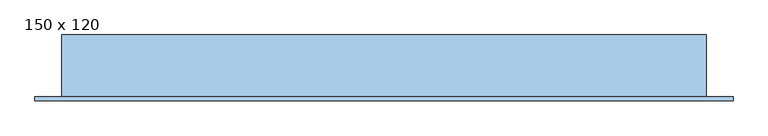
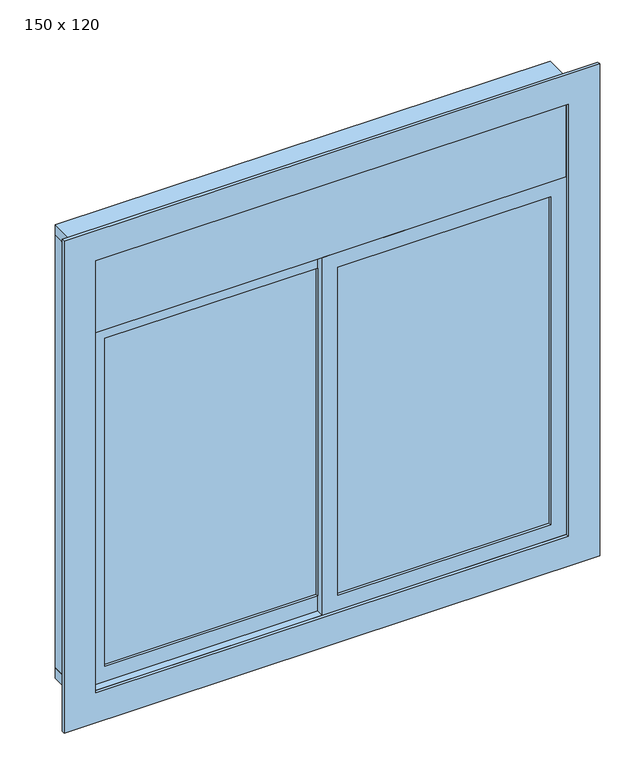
"""IFC4 building model written with IfcOpenShell, lengths in millimetres: window geometry, JANELA COM ESQUADRIA DE CORRER - 2 FOLHAS + PERSIANA INTEGRADA : 150 x 120."""

from ifc_helpers import new_model, si_unit, frame, origin, place, context, project, spatial, polyline, outline, extrude, source, transform, mapped, element, save


def window_150_x_120_f6b27d10(model_context):
    return source(origin(), model_context, "Body", "SweptSolid", [
        extrude(outline(polyline([(-570.5964491, -35.3758395), (104.4035509, -35.3758395), (104.4035509, -41.3758395), (-570.5964491, -41.3758395), (-570.5964491, -35.3758395)])), frame((0.0, 0.0, 1050.0), z_axis=(0.0, 0.0, 1.0), x_axis=(1.0, 0.0, 0.0)), (0.0, 0.0, 1.0), 1100.0),
        extrude(outline(polyline([(2200.0, -620.5964491), (1000.0, -620.5964491), (1000.0, 154.4035509), (2200.0, 154.4035509), (2200.0, -620.5964491)]), holes=[polyline([(2150.0, -570.5964491), (2150.0, 104.4035509), (1050.0, 104.4035509), (1050.0, -570.5964491), (2150.0, -570.5964491)])]), frame((0.0, -50.8758395, 0.0), z_axis=(0.0, 1.0, 0.0), x_axis=(0.0, 0.0, 1.0)), (0.0, 0.0, 1.0), 25.0),
        extrude(outline(polyline([(829.4035509, -60.3758395), (829.4035509, -66.3758395), (154.4035509, -66.3758395), (154.4035509, -60.3758395), (829.4035509, -60.3758395)])), frame((0.0, 0.0, 1050.0), z_axis=(0.0, 0.0, 1.0), x_axis=(1.0, 0.0, 0.0)), (0.0, 0.0, 1.0), 1100.0),
        extrude(outline(polyline([(2200.0, 879.4035509), (2200.0, 104.4035509), (1000.0, 104.4035509), (1000.0, 879.4035509), (2200.0, 879.4035509)]), holes=[polyline([(2150.0, 829.4035509), (1050.0, 829.4035509), (1050.0, 154.4035509), (2150.0, 154.4035509), (2150.0, 829.4035509)])]), frame((0.0, -75.8758395, 0.0), z_axis=(0.0, 1.0, 0.0), x_axis=(0.0, 0.0, 1.0)), (0.0, 0.0, 1.0), 25.0),
        extrude(outline(polyline([(900.0, -720.5964491), (900.0, 979.4035509), (2550.0, 979.4035509), (2550.0, -720.5964491), (900.0, -720.5964491)]), holes=[polyline([(2450.0, -620.5964491), (2450.0, 879.4035509), (1000.0, 879.4035509), (1000.0, -620.5964491), (2450.0, -620.5964491)])]), frame((0.0, -85.8758395, 0.0), z_axis=(0.0, 1.0, 0.0), x_axis=(0.0, 0.0, 1.0)), (0.0, 0.0, 1.0), 10.0),
        extrude(outline(polyline([(-655.5964491, 74.1241605), (-620.5964491, 74.1241605), (-620.5964491, -75.8758395), (-655.5964491, -75.8758395), (-655.5964491, 74.1241605)])), frame((0.0, 0.0, 1000.0), z_axis=(0.0, 0.0, 1.0), x_axis=(1.0, 0.0, 0.0)), (0.0, 0.0, 1.0), 1450.0),
        extrude(outline(polyline([(879.4035509, 74.1241605), (914.4035509, 74.1241605), (914.4035509, -75.8758395), (879.4035509, -75.8758395), (879.4035509, 74.1241605)])), frame((0.0, 0.0, 1000.0), z_axis=(0.0, 0.0, 1.0), x_axis=(1.0, 0.0, 0.0)), (0.0, 0.0, 1.0), 1450.0),
        extrude(outline(polyline([(-655.5964491, 74.1241605), (914.4035509, 74.1241605), (914.4035509, -75.8758395), (-655.5964491, -75.8758395), (-655.5964491, 74.1241605)])), frame((0.0, 0.0, 965.0), z_axis=(0.0, 0.0, 1.0), x_axis=(1.0, 0.0, 0.0)), (0.0, 0.0, 1.0), 35.0),
        extrude(outline(polyline([(879.4035509, 53.1241605), (879.4035509, 45.1241605), (-620.5964491, 45.1241605), (-620.5964491, 53.1241605), (879.4035509, 53.1241605)])), frame((0.0, 0.0, 2330.0), z_axis=(0.0, 0.0, 1.0), x_axis=(1.0, 0.0, 0.0)), (0.0, 0.0, 1.0), 120.0),
        extrude(outline(polyline([(879.4035509, 69.1241605), (879.4035509, 64.1241605), (-620.5964491, 64.1241605), (-620.5964491, 69.1241605), (879.4035509, 69.1241605)])), frame((0.0, 0.0, 2200.0), z_axis=(0.0, 0.0, 1.0), x_axis=(1.0, 0.0, 0.0)), (0.0, 0.0, 1.0), 250.0),
        extrude(outline(polyline([(-75.8758395, 2200.0), (-75.8758395, 2450.0), (-70.8758395, 2450.0), (-70.8758395, 2205.0), (34.1241605, 2205.0), (34.1241605, 2200.0), (-75.8758395, 2200.0)])), frame((-620.5964491, 0.0, 0.0), z_axis=(1.0, 0.0, 0.0), x_axis=(0.0, 1.0, 0.0)), (0.0, 0.0, 1.0), 1500.0),
        extrude(outline(polyline([(-655.5964491, 74.1241605), (914.4035509, 74.1241605), (914.4035509, -75.8758395), (-655.5964491, -75.8758395), (-655.5964491, 74.1241605)])), frame((0.0, 0.0, 2450.0), z_axis=(0.0, 0.0, 1.0), x_axis=(1.0, 0.0, 0.0)), (0.0, 0.0, 1.0), 35.0),
        extrude(outline(polyline([(-580.5964491, 64.1241605), (-580.5964491, 59.1241605), (-620.5964491, 59.1241605), (-620.5964491, 64.1241605), (-580.5964491, 64.1241605)])), frame((0.0, 0.0, 1000.0), z_axis=(0.0, 0.0, 1.0), x_axis=(1.0, 0.0, 0.0)), (0.0, 0.0, 1.0), 1450.0),
        extrude(outline(polyline([(-620.5964491, 39.1241605), (-580.5964491, 39.1241605), (-580.5964491, 34.1241605), (-620.5964491, 34.1241605), (-620.5964491, 39.1241605)])), frame((0.0, 0.0, 1000.0), z_axis=(0.0, 0.0, 1.0), x_axis=(1.0, 0.0, 0.0)), (0.0, 0.0, 1.0), 1450.0),
        extrude(outline(polyline([(839.4035509, 64.1241605), (879.4035509, 64.1241605), (879.4035509, 59.1241605), (839.4035509, 59.1241605), (839.4035509, 64.1241605)])), frame((0.0, 0.0, 1000.0), z_axis=(0.0, 0.0, 1.0), x_axis=(1.0, 0.0, 0.0)), (0.0, 0.0, 1.0), 1450.0),
        extrude(outline(polyline([(879.4035509, 39.1241605), (879.4035509, 34.1241605), (839.4035509, 34.1241605), (839.4035509, 39.1241605), (879.4035509, 39.1241605)])), frame((0.0, 0.0, 1000.0), z_axis=(0.0, 0.0, 1.0), x_axis=(1.0, 0.0, 0.0)), (0.0, 0.0, 1.0), 1450.0),
    ])


if __name__ == "__main__":
    model = new_model("IFC4")
    model_context = context("Model", 3, world=origin())
    ifc_project = project(units=[si_unit("LENGTHUNIT", "METRE", prefix="MILLI")], contexts=[model_context])
    site = spatial("IfcSite", under=ifc_project)
    building = spatial("IfcBuilding", under=site)
    placement = place(None, origin())
    window_150_x_120_shape = window_150_x_120_f6b27d10(model_context)
    element("IfcWindow", 1, ObjectType="JANELA COM ESQUADRIA DE CORRER - 2 FOLHAS + PERSIANA INTEGRADA : 150 x 120", at=placement, inside=building, context=model_context, shape_type="MappedRepresentation", body=[
        mapped(window_150_x_120_shape, transform((0.0, 0.0, 0.0), x_axis=(1.0, 0.0, 0.0), y_axis=(0.0, 1.0, 0.0), z_axis=(0.0, 0.0, 1.0))),
    ])
    save(model, "model.ifc")
